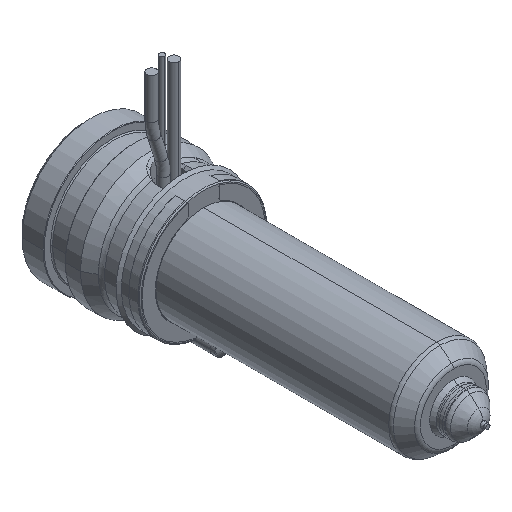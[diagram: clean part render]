
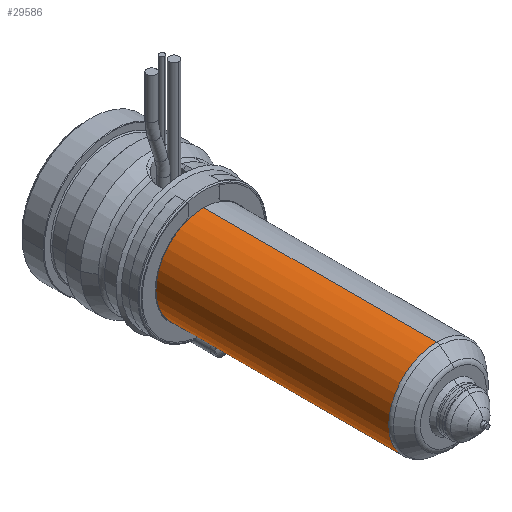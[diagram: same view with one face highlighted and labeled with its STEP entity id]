
A CAD part, isometric view. The second image highlights one B-rep face of the part: STEP entity #29586.
In plain terms, the highlighted cylindrical face has radius 9 mm (diameter 18 mm), a partial arc.
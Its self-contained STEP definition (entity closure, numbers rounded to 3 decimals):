
#28969=CARTESIAN_POINT('',(0.,-65.836,0.));
#28970=DIRECTION('',(0.,-1.,0.));
#28971=DIRECTION('',(0.,0.,1.));
#28972=AXIS2_PLACEMENT_3D('',#28969,#28970,#28971);
#28977=CARTESIAN_POINT('',(0.,-22.,0.));
#28978=DIRECTION('',(0.,-1.,0.));
#28979=DIRECTION('',(0.,0.,1.));
#28980=AXIS2_PLACEMENT_3D('',#28977,#28978,#28979);
#28985=DIRECTION('',(0.,-1.,0.));
#28986=VECTOR('',#28985,43.836);
#28987=CARTESIAN_POINT('',(0.,-22.,9.));
#28988=LINE('',#28987,#28986);
#29000=DIRECTION('',(0.,-1.,0.));
#29001=VECTOR('',#29000,43.836);
#29002=CARTESIAN_POINT('',(0.,-22.,-9.));
#29003=LINE('',#29002,#29001);
#29203=CARTESIAN_POINT('',(0.,-22.,9.));
#29204=CARTESIAN_POINT('',(0.,-65.836,9.));
#29205=VERTEX_POINT('',#29203);
#29206=VERTEX_POINT('',#29204);
#29229=CARTESIAN_POINT('',(0.,-22.,-9.));
#29230=CARTESIAN_POINT('',(0.,-65.836,-9.));
#29231=VERTEX_POINT('',#29229);
#29232=VERTEX_POINT('',#29230);
#29572=CARTESIAN_POINT('',(0.,-15.125,0.));
#29573=DIRECTION('',(0.,-1.,0.));
#29574=DIRECTION('',(0.,0.,1.));
#29575=AXIS2_PLACEMENT_3D('',#29572,#29573,#29574);
#29576=CYLINDRICAL_SURFACE('',#29575,9.);
#29578=ORIENTED_EDGE('',*,*,#29577,.T.);
#29579=ORIENTED_EDGE('',*,*,#29567,.T.);
#29581=ORIENTED_EDGE('',*,*,#29580,.F.);
#29583=ORIENTED_EDGE('',*,*,#29582,.F.);
#29584=EDGE_LOOP('',(#29578,#29579,#29581,#29583));
#29585=FACE_OUTER_BOUND('',#29584,.F.);
#29586=ADVANCED_FACE('',(#29585),#29576,.T.);
#28973=CIRCLE('',#28972,9.);
#28981=CIRCLE('',#28980,9.);
#29567=EDGE_CURVE('',#29206,#29232,#28973,.T.);
#29577=EDGE_CURVE('',#29205,#29206,#28988,.T.);
#29580=EDGE_CURVE('',#29231,#29232,#29003,.T.);
#29582=EDGE_CURVE('',#29205,#29231,#28981,.T.);
